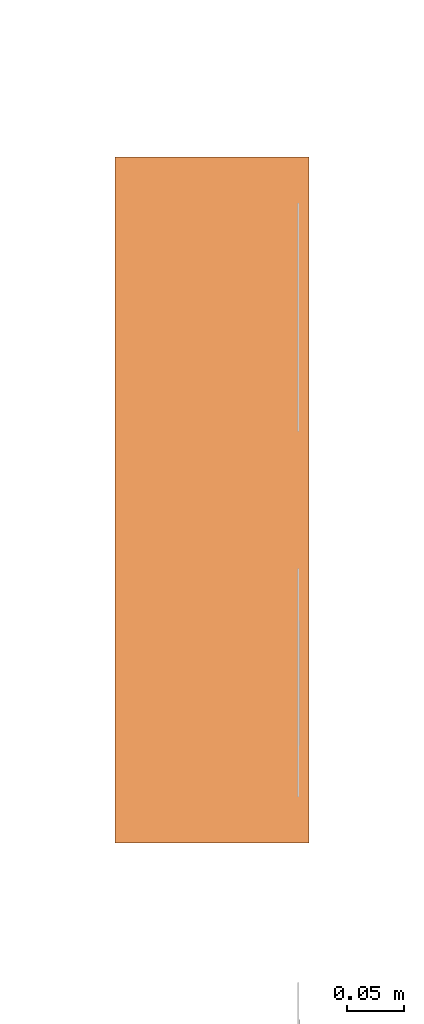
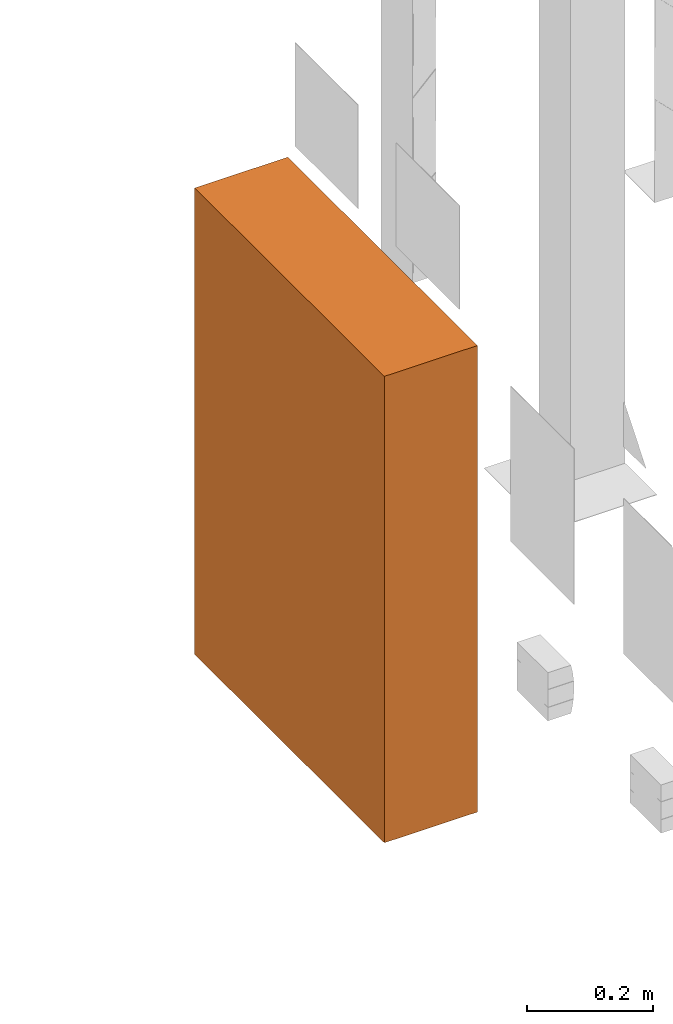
# One storey, part 20 of 119: 1 proxy.
"""IFC2X3 building model written with IfcOpenShell, lengths in metres."""

import ifcopenshell
import ifcopenshell.guid

model = None  # the IFC model being written
_history = None  # IfcOwnerHistory: only IFC2X3 demands one
_inside = {}  # id of a spatial element -> (the spatial element, [elements in it])
_under = {}  # id of a project, library or spatial element -> (it, [spatial elements below it])
_declared = {}  # id of a project -> (the project, [libraries it declares])
_typed = {}  # id of a type object -> (the type object, [elements of that type])
_made_of = {}  # id of a material, layer set ... -> (it, [elements and type objects made of it])


def new_model(schema):
    """Start an empty IFC model of exactly this schema.

    Asked for "IFC4X3", IfcOpenShell would pick the latest addendum, in which some entities
    have other attributes; the version numbers below select the first issue.
    IFC2X3 requires an IfcOwnerHistory on every rooted entity: one is made here for all.
    """
    global model, _history
    if schema == "IFC4X3":
        model = ifcopenshell.file(schema_version=(4, 3, 0, 0))
    else:
        model = ifcopenshell.file(schema=schema)
    _inside.clear()
    _under.clear()
    _declared.clear()
    _typed.clear()
    _made_of.clear()
    _history = None
    if model.schema == "IFC2X3":
        org = make("IfcOrganization", Name="unknown")
        user = make(
            "IfcPersonAndOrganization",
            ThePerson=make("IfcPerson", FamilyName="unknown"),
            TheOrganization=org,
        )
        app = make(
            "IfcApplication",
            ApplicationDeveloper=org,
            Version="unknown",
            ApplicationFullName="unknown",
            ApplicationIdentifier="unknown",
        )
        _history = make(
            "IfcOwnerHistory",
            OwningUser=user,
            OwningApplication=app,
            ChangeAction="ADDED",
            CreationDate=0,
        )
    return model


def make(cls, **values):
    """One entity of the class cls with the attributes given. An attribute that is None is left unset."""
    return model.create_entity(
        cls, **{name: value for name, value in values.items() if value is not None}
    )


def entity(cls, *values):
    """Any entity or typed value of the class cls, its attributes in the order of the schema. None: left unset."""
    e = model.create_entity(cls)
    for i, value in enumerate(values):
        if value is not None:
            e[i] = value
    return e


def rooted(cls, **values):
    """An entity with a GlobalId (a new one), such as an element, a storey or a relation."""
    return make(cls, GlobalId=ifcopenshell.guid.new(), OwnerHistory=_history, **values)


def si_unit(unit_type, name, prefix=None):
    """IfcSIUnit, for example si_unit("LENGTHUNIT", "METRE", prefix="MILLI")."""
    return make("IfcSIUnit", UnitType=unit_type, Prefix=prefix, Name=name)


def converted_unit(unit_type, name, factor, base, dimensions=None, offset=None):
    """IfcConversionBasedUnit, such as the inch: factor (a typed value) times the base unit."""
    return make(
        "IfcConversionBasedUnit"
        if offset is None
        else "IfcConversionBasedUnitWithOffset",
        ConversionOffset=offset,
        Dimensions=None
        if dimensions is None
        else entity("IfcDimensionalExponents", *dimensions),
        UnitType=unit_type,
        Name=name,
        ConversionFactor=make(
            "IfcMeasureWithUnit", ValueComponent=factor, UnitComponent=base
        ),
    )


def derived_unit(unit_type, elements):
    """IfcDerivedUnit: a product of units, each with its exponent."""
    return make(
        "IfcDerivedUnit",
        Elements=[
            make("IfcDerivedUnitElement", Unit=unit, Exponent=power)
            for unit, power in elements
        ],
        UnitType=unit_type,
    )


def assignment(units):
    """IfcUnitAssignment: the units of a project."""
    return None if units is None else make("IfcUnitAssignment", Units=units)


def point(xyz):
    """IfcCartesianPoint."""
    return None if xyz is None else make("IfcCartesianPoint", Coordinates=xyz)


def direction(xyz):
    """IfcDirection."""
    return None if xyz is None else make("IfcDirection", DirectionRatios=xyz)


def frame(location, z_axis=None, x_axis=None):
    """IfcAxis2Placement3D, a coordinate frame: its origin and axes. An axis left out is left unset."""
    return make(
        "IfcAxis2Placement3D",
        Location=point(location),
        Axis=direction(z_axis),
        RefDirection=direction(x_axis),
    )


def origin():
    """The frame at (0, 0, 0) with its axes left unset."""
    return frame((0.0, 0.0, 0.0))


def place(relative_to, where):
    """IfcLocalPlacement: puts the frame where relative to a parent placement (None: the world)."""
    return make(
        "IfcLocalPlacement", PlacementRelTo=relative_to, RelativePlacement=where
    )


def context(
    kind, dimensions, precision=None, world=None, true_north=None, identifier=None
):
    """IfcGeometricRepresentationContext, for example the 3D "Model" context."""
    return make(
        "IfcGeometricRepresentationContext",
        ContextIdentifier=identifier,
        ContextType=kind,
        CoordinateSpaceDimension=dimensions,
        Precision=precision,
        WorldCoordinateSystem=world,
        TrueNorth=true_north,
    )


def subcontext(parent, identifier, kind, view, scale=None):
    """IfcGeometricRepresentationSubContext, for example "Body" below "Model"."""
    return make(
        "IfcGeometricRepresentationSubContext",
        ContextIdentifier=identifier,
        ContextType=kind,
        ParentContext=parent,
        TargetScale=scale,
        TargetView=view,
    )


def project(units=None, contexts=None):
    """IfcProject with its units and contexts."""
    return rooted(
        "IfcProject",
        Name="project",
        RepresentationContexts=contexts,
        UnitsInContext=assignment(units),
    )


def spatial(cls, under=None, at=None, **own):
    """A site, building, storey or space (cls), placed at a placement, below another one or the project."""
    s = rooted(cls, ObjectPlacement=at, **own)
    if under is not None:
        _under.setdefault(under.id(), (under, []))[1].append(s)
    return s


def faces_of(points, faces, orient=None, outer=None):
    """IfcFace entities. A face is a list of loops; a loop is a list of indices into points, from 0.

    orient and outer hold one flag for each loop. By default every Orientation is true, the
    first loop of a face is its IfcFaceOuterBound and the others are IfcFaceBound.
    """
    made = []
    for i, loops in enumerate(faces):
        bounds = []
        for j, loop in enumerate(loops):
            is_outer = j == 0 if outer is None else outer[i][j]
            bounds.append(
                make(
                    "IfcFaceOuterBound" if is_outer else "IfcFaceBound",
                    Bound=make("IfcPolyLoop", Polygon=[points[k] for k in loop]),
                    Orientation=True if orient is None else orient[i][j],
                )
            )
        made.append(make("IfcFace", Bounds=bounds))
    return made


def face_set(faces, orient=None, outer=None):
    """The faces of one IfcConnectedFaceSet. surface_model builds it on its shared points."""
    return ("IfcConnectedFaceSet", faces, orient, outer)


def surface_model(cls, points, shells):
    """IfcFaceBasedSurfaceModel or IfcShellBasedSurfaceModel (cls): surfaces that need not close."""
    shared = [point(p) for p in points]
    made = [make(c, CfsFaces=faces_of(shared, fs, o, b)) for c, fs, o, b in shells]
    if cls == "IfcFaceBasedSurfaceModel":
        return make(cls, FbsmFaces=made)
    return make(cls, SbsmBoundary=made)


def shape(context_of_items, identifier, shape_type, items):
    """IfcShapeRepresentation: the items that make up one representation, for example the "Body"."""
    return make(
        "IfcShapeRepresentation",
        ContextOfItems=context_of_items,
        RepresentationIdentifier=identifier,
        RepresentationType=shape_type,
        Items=items,
    )


def source(mapping_origin, context_of_items, identifier, shape_type, items):
    """IfcRepresentationMap: a shape defined once, which mapped items show again and again."""
    return make(
        "IfcRepresentationMap",
        MappingOrigin=mapping_origin,
        MappedRepresentation=shape(context_of_items, identifier, shape_type, items),
    )


def transform(
    local_origin,
    x_axis=None,
    y_axis=None,
    z_axis=None,
    scale=None,
    scale2=None,
    scale3=None,
    uniform=True,
):
    """IfcCartesianTransformationOperator3D, or its non-uniform kind. x_axis, y_axis, z_axis: its Axis1, 2, 3."""
    if uniform:
        return make(
            "IfcCartesianTransformationOperator3D",
            Axis1=direction(x_axis),
            Axis2=direction(y_axis),
            LocalOrigin=point(local_origin),
            Scale=scale,
            Axis3=direction(z_axis),
        )
    return make(
        "IfcCartesianTransformationOperator3DnonUniform",
        Axis1=direction(x_axis),
        Axis2=direction(y_axis),
        LocalOrigin=point(local_origin),
        Scale=scale,
        Axis3=direction(z_axis),
        Scale2=scale2,
        Scale3=scale3,
    )


def mapped(mapping_source, mapping_target):
    """IfcMappedItem: shows the shape of a source again, moved by a transform."""
    return make(
        "IfcMappedItem", MappingSource=mapping_source, MappingTarget=mapping_target
    )


def material(Name=None, Category=None):
    """IfcMaterial."""
    return make("IfcMaterial", Name=Name, Category=Category)


def material_list(materials):
    """IfcMaterialList."""
    return make("IfcMaterialList", Materials=materials)


def made_of(thing, what):
    """Note that an element or type object is made of a material, layer set ...; save() writes the relation."""
    if what is not None:
        _made_of.setdefault(what.id(), (what, []))[1].append(thing)
    return thing


def type_object(cls, material=None, **own):
    """A type object (cls), such as IfcWallType, which elements share."""
    return made_of(rooted(cls, **own), material)


def type_shapes(of_type, sources):
    """Give a type object the sources (RepresentationMaps) that its elements show as mapped items."""
    of_type.RepresentationMaps = sources


def element(
    cls,
    number,
    at=None,
    inside=None,
    cuts=None,
    type_object=None,
    material=None,
    context=None,
    identifier="Body",
    shape_type=None,
    held_by="IfcProductDefinitionShape",
    body=None,
    shapes=None,
    **own,
):
    """One element of the class cls, such as IfcWall. Its Tag is "e" and its number.

    at: its placement. inside: the storey or other place that contains it. cuts: it is an
    opening in that element (IfcRelVoidsElement). A single representation is given by context,
    identifier, shape_type and body (its items); several are given by shapes. held_by: the class
    of the entity that holds the representations. save() writes the other relations.
    """
    e = rooted(cls, Tag="e%d" % number, ObjectPlacement=at, **own)
    if body is not None:
        shapes = [shape(context, identifier, shape_type, body)]
    if shapes is not None:
        e.Representation = make(held_by, Representations=shapes)
    if inside is not None:
        _inside.setdefault(inside.id(), (inside, []))[1].append(e)
    if cuts is not None:
        rooted(
            "IfcRelVoidsElement", RelatingBuildingElement=cuts, RelatedOpeningElement=e
        )
    if type_object is not None:
        _typed.setdefault(type_object.id(), (type_object, []))[1].append(e)
    return made_of(e, material)


def aggregate(whole, parts):
    """IfcRelAggregates: a whole, such as a stair, and the parts it consists of."""
    return rooted("IfcRelAggregates", RelatingObject=whole, RelatedObjects=parts)


def save(model, path):
    """Write the relations noted so far, then the file.

    IfcRelAggregates (storeys below a building ...), IfcRelContainedInSpatialStructure (elements
    in a storey), IfcRelDefinesByType, IfcRelAssociatesMaterial and IfcRelDeclares: one each for
    every whole, place, type object, material and project.
    """
    for whole, parts in _under.values():
        aggregate(whole, parts)
    for where, things in _inside.values():
        rooted(
            "IfcRelContainedInSpatialStructure",
            RelatedElements=things,
            RelatingStructure=where,
        )
    for kind, things in _typed.values():
        rooted("IfcRelDefinesByType", RelatedObjects=things, RelatingType=kind)
    for what, things in _made_of.values():
        rooted("IfcRelAssociatesMaterial", RelatedObjects=things, RelatingMaterial=what)
    for by, libraries in _declared.values():
        rooted("IfcRelDeclares", RelatingContext=by, RelatedDefinitions=libraries)
    model.write(path)


model = new_model("IFC2X3")

# Units and contexts
model_context = context("Model", 3, precision=1e-05, world=origin(), true_north=direction((6.12303176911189e-17, 1.0)))
body_context = subcontext(model_context, "Body", "Model", "MODEL_VIEW")
ifc_project = project(units=[si_unit("LENGTHUNIT", "METRE"), si_unit("AREAUNIT", "SQUARE_METRE"), si_unit("VOLUMEUNIT", "CUBIC_METRE"), converted_unit("PLANEANGLEUNIT", "DEGREE", entity("IfcRatioMeasure", 0.0174532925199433), si_unit("PLANEANGLEUNIT", "RADIAN"), dimensions=[0, 0, 0, 0, 0, 0, 0]), si_unit("MASSUNIT", "GRAM", prefix="KILO"), derived_unit("MASSDENSITYUNIT", [(si_unit("MASSUNIT", "GRAM", prefix="KILO"), 1), (si_unit("LENGTHUNIT", "METRE"), -3)]), derived_unit("MOMENTOFINERTIAUNIT", [(si_unit("LENGTHUNIT", "METRE"), 4)]), si_unit("TIMEUNIT", "SECOND"), si_unit("FREQUENCYUNIT", "HERTZ"), si_unit("THERMODYNAMICTEMPERATUREUNIT", "DEGREE_CELSIUS"), derived_unit("THERMALTRANSMITTANCEUNIT", [(si_unit("MASSUNIT", "GRAM", prefix="KILO"), 1), (si_unit("THERMODYNAMICTEMPERATUREUNIT", "KELVIN"), -1), (si_unit("TIMEUNIT", "SECOND"), -3)]), derived_unit("VOLUMETRICFLOWRATEUNIT", [(si_unit("LENGTHUNIT", "METRE"), 3), (si_unit("TIMEUNIT", "SECOND"), -1)]), si_unit("ELECTRICCURRENTUNIT", "AMPERE"), si_unit("ELECTRICVOLTAGEUNIT", "VOLT"), si_unit("POWERUNIT", "WATT"), si_unit("FORCEUNIT", "NEWTON", prefix="KILO"), si_unit("ILLUMINANCEUNIT", "LUX"), si_unit("LUMINOUSFLUXUNIT", "LUMEN"), si_unit("LUMINOUSINTENSITYUNIT", "CANDELA"), derived_unit("USERDEFINED", [(si_unit("MASSUNIT", "GRAM", prefix="KILO"), -1), (si_unit("LENGTHUNIT", "METRE"), -2), (si_unit("TIMEUNIT", "SECOND"), 3), (si_unit("LUMINOUSFLUXUNIT", "LUMEN"), 1)]), derived_unit("LINEARVELOCITYUNIT", [(si_unit("LENGTHUNIT", "METRE"), 1), (si_unit("TIMEUNIT", "SECOND"), -1)]), si_unit("PRESSUREUNIT", "PASCAL"), derived_unit("USERDEFINED", [(si_unit("LENGTHUNIT", "METRE"), -2), (si_unit("MASSUNIT", "GRAM", prefix="KILO"), 1), (si_unit("TIMEUNIT", "SECOND"), -2)]), derived_unit("LINEARFORCEUNIT", [(si_unit("MASSUNIT", "GRAM", prefix="KILO"), 1), (si_unit("LENGTHUNIT", "METRE"), 1), (si_unit("TIMEUNIT", "SECOND"), -2), (si_unit("LENGTHUNIT", "METRE"), -1)]), derived_unit("PLANARFORCEUNIT", [(si_unit("MASSUNIT", "GRAM", prefix="KILO"), 1), (si_unit("LENGTHUNIT", "METRE"), 1), (si_unit("TIMEUNIT", "SECOND"), -2), (si_unit("LENGTHUNIT", "METRE"), -2)])], contexts=[model_context])

# Site, building, storey
site_placement = place(None, origin())
site = spatial("IfcSite", under=ifc_project, at=site_placement, Name="Default", CompositionType="ELEMENT")
building_placement = place(site_placement, origin())
building = spatial("IfcBuilding", under=site, at=building_placement, CompositionType="ELEMENT")
storey_placement = place(building_placement, origin())
storey = spatial("IfcBuildingStorey", under=building, at=storey_placement, Name="PAV. 01 - TÉRREO", CompositionType="ELEMENT", Elevation=0.0)

# Proxy
ifc_material_1 = material(Name="Pintura branca")
ifc_material_2 = material(Name="Vidro")
ifc_material_3 = material(Name="Pintura Metalica Vermelha")
ifc_material_list_1 = material_list([ifc_material_1, ifc_material_2, ifc_material_3])
ifc_material_list_2 = material_list([ifc_material_3, ifc_material_1])
building_element_proxy_type = type_object("IfcBuildingElementProxyType", Name="Equipamento - E07 - Hidrante:Hidrante simples embutido - requinte 2.1/2 - 38 mm - 30m", PredefinedType="NOTDEFINED", material=ifc_material_list_2)
shared_shape = source(origin(), body_context, "Body", "SurfaceModel", [
    surface_model("IfcFaceBasedSurfaceModel", [(0.234125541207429, 0.00999999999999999, 0.69041529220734), (0.236636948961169, 0.00999999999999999, 0.69041529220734), (0.236636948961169, 0.00999999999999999, 0.710506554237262), (0.234125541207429, 0.00999999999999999, 0.710506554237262), (0.241659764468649, 0.00999999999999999, 0.69041529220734), (0.244171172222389, 0.00999999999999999, 0.69041529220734), (0.244171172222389, 0.00999999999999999, 0.706337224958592), (0.254668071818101, 0.00999999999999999, 0.69041529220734), (0.257356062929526, 0.00999999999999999, 0.69041529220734), (0.257356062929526, 0.00999999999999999, 0.710506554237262), (0.254844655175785, 0.00999999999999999, 0.710506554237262), (0.254844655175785, 0.00999999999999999, 0.69458952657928), (0.244347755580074, 0.00999999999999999, 0.710506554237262), (0.241659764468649, 0.00999999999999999, 0.710506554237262), (0.27587769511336, 0.00999999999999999, 0.697557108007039), (0.273746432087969, 0.00999999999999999, 0.693858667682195), (0.269903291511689, 0.00999999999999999, 0.692612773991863), (0.266437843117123, 0.00999999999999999, 0.693527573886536), (0.264078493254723, 0.00999999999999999, 0.696291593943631), (0.263320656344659, 0.00999999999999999, 0.70061788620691), (0.263960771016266, 0.00999999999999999, 0.704350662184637), (0.2661803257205, 0.00999999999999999, 0.707234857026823), (0.270109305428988, 0.00999999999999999, 0.708309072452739), (0.273503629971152, 0.00999999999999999, 0.707340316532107), (0.275563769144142, 0.00999999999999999, 0.704252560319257), (0.278075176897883, 0.00999999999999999, 0.704850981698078), (0.275237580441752, 0.00999999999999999, 0.709255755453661), (0.270207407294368, 0.00999999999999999, 0.71082048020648), (0.265380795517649, 0.00999999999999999, 0.709611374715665), (0.261998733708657, 0.00999999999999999, 0.706072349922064), (0.260809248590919, 0.00999999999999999, 0.700612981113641), (0.261861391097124, 0.00999999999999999, 0.69524190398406), (0.264927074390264, 0.00999999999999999, 0.69142083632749), (0.270153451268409, 0.00999999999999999, 0.690101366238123), (0.275411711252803, 0.00999999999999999, 0.691845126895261), (0.2783891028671, 0.00999999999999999, 0.696909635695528), (0.289376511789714, 0.00999999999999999, 0.714273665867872), (0.29110310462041, 0.00999999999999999, 0.711762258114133), (0.29361451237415, 0.00999999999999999, 0.711762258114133), (0.290632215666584, 0.00999999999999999, 0.715529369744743), (0.288120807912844, 0.00999999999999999, 0.715529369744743), (0.285452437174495, 0.00999999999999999, 0.711762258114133), (0.287963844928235, 0.00999999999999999, 0.711762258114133), (0.300363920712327, 0.00999999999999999, 0.69041529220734), (0.302875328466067, 0.00999999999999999, 0.69041529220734), (0.302875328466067, 0.00999999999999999, 0.706337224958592), (0.313372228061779, 0.00999999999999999, 0.69041529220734), (0.316060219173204, 0.00999999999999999, 0.69041529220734), (0.316060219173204, 0.00999999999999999, 0.710506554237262), (0.313548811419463, 0.00999999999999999, 0.710506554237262), (0.313548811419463, 0.00999999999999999, 0.69458952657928), (0.303051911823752, 0.00999999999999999, 0.710506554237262), (0.300363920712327, 0.00999999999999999, 0.710506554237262), (0.320455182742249, 0.00999999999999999, 0.69041529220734), (0.327719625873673, 0.00999999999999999, 0.69041529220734), (0.330949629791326, 0.00999999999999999, 0.690758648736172), (0.333350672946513, 0.00999999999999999, 0.691766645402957), (0.335185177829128, 0.00999999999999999, 0.693588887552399), (0.336558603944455, 0.00999999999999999, 0.696514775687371), (0.337093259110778, 0.00999999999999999, 0.70056883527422), (0.336303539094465, 0.00999999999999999, 0.705346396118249), (0.333924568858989, 0.00999999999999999, 0.708779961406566), (0.330971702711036, 0.00999999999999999, 0.71021715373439), (0.32738607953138, 0.00999999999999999, 0.710506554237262), (0.320455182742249, 0.00999999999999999, 0.710506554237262), (0.322966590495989, 0.00999999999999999, 0.692926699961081), (0.322966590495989, 0.00999999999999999, 0.707995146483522), (0.327341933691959, 0.00999999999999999, 0.707995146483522), (0.33090303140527, 0.00999999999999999, 0.707592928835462), (0.333510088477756, 0.00999999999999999, 0.705366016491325), (0.334581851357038, 0.00999999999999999, 0.700608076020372), (0.334034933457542, 0.00999999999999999, 0.696809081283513), (0.332506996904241, 0.00999999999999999, 0.694314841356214), (0.330643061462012, 0.00999999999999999, 0.693289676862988), (0.327410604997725, 0.00999999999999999, 0.692926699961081), (0.340860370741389, 0.00999999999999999, 0.69041529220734), (0.343371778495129, 0.00999999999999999, 0.69041529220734), (0.343371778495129, 0.00999999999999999, 0.710506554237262), (0.340860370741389, 0.00999999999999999, 0.710506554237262), (0.347452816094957, 0.00999999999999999, 0.700196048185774), (0.348600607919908, 0.00999999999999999, 0.695195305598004), (0.351975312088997, 0.00999999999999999, 0.691467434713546), (0.357027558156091, 0.00999999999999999, 0.690101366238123), (0.361890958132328, 0.00999999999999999, 0.691337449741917), (0.365373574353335, 0.00999999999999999, 0.694977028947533), (0.366602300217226, 0.00999999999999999, 0.700426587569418), (0.365434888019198, 0.00999999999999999, 0.705802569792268), (0.362040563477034, 0.00999999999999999, 0.709496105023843), (0.357042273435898, 0.00999999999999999, 0.71082048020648), (0.350130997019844, 0.00999999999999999, 0.708000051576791), (0.349964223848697, 0.00999999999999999, 0.700171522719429), (0.35205869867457, 0.00999999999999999, 0.706432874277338), (0.357056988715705, 0.00999999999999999, 0.708309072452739), (0.360743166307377, 0.00999999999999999, 0.707335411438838), (0.363237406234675, 0.00999999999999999, 0.704591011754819), (0.364090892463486, 0.00999999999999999, 0.700446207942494), (0.362096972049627, 0.00999999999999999, 0.694653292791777), (0.357012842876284, 0.00999999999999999, 0.692612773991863), (0.351972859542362, 0.00999999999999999, 0.694633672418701), (0.281842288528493, 0.00999999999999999, 0.69041529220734), (0.296596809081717, 0.00999999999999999, 0.69041529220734), (0.296596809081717, 0.00999999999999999, 0.692926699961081), (0.284353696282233, 0.00999999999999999, 0.692926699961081), (0.284353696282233, 0.00999999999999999, 0.699519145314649), (0.295655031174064, 0.00999999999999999, 0.699519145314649), (0.295655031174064, 0.00999999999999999, 0.702030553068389), (0.284353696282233, 0.00999999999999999, 0.702030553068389), (0.284353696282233, 0.00999999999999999, 0.707995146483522), (0.296282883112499, 0.00999999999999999, 0.707995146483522), (0.296282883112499, 0.00999999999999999, 0.710506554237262), (0.281842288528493, 0.00999999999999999, 0.710506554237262)], [face_set([[[0, 1, 2, 3]]]), face_set([[[4, 5, 6, 7, 8, 9, 10, 11, 12, 13]]]), face_set([[[14, 15, 16, 17, 18, 19, 20, 21, 22, 23, 24, 25, 26, 27, 28, 29, 30, 31, 32, 33, 34, 35]]]), face_set([[[36, 37, 38, 39, 40, 41, 42]]]), face_set([[[43, 44, 45, 46, 47, 48, 49, 50, 51, 52]]]), face_set([[[53, 54, 55, 56, 57, 58, 59, 60, 61, 62, 63, 64], [65, 66, 67, 68, 69, 70, 71, 72, 73, 74]]]), face_set([[[75, 76, 77, 78]]]), face_set([[[79, 80, 81, 82, 83, 84, 85, 86, 87, 88, 89], [90, 91, 92, 93, 94, 95, 96, 97, 98]]]), face_set([[[99, 100, 101, 102, 103, 104, 105, 106, 107, 108, 109, 110]]])]),
    surface_model("IfcFaceBasedSurfaceModel", [(0.375000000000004, 0.0, 0.700857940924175), (0.372444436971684, 0.0, 0.681446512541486), (0.364951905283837, 0.0, 0.663357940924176), (0.353033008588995, 0.0, 0.647824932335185), (0.337500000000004, 0.0, 0.635906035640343), (0.319411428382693, 0.0, 0.628413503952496), (0.300000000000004, 0.0, 0.625857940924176), (0.280588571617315, 0.0, 0.628413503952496), (0.262500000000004, 0.0, 0.635906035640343), (0.246966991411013, 0.0, 0.647824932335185), (0.235048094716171, 0.0, 0.663357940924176), (0.227555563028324, 0.0, 0.681446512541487), (0.225000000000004, 0.0, 0.700857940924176), (0.227555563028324, 0.0, 0.720269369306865), (0.235048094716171, 0.0, 0.738357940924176), (0.246966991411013, 0.0, 0.753890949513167), (0.262500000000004, 0.0, 0.765809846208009), (0.280588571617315, 0.0, 0.773302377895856), (0.300000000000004, 0.0, 0.775857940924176), (0.319411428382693, 0.0, 0.773302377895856), (0.337500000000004, 0.0, 0.765809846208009), (0.353033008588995, 0.0, 0.753890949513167), (0.364951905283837, 0.0, 0.738357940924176), (0.372444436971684, 0.0, 0.720269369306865), (0.375000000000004, 0.00999999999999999, 0.700857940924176), (0.372444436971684, 0.00999999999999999, 0.681446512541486), (0.364951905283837, 0.00999999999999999, 0.663357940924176), (0.353033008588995, 0.00999999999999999, 0.647824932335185), (0.337500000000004, 0.00999999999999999, 0.635906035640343), (0.319411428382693, 0.00999999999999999, 0.628413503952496), (0.300000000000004, 0.00999999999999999, 0.625857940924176), (0.280588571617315, 0.00999999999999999, 0.628413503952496), (0.262500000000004, 0.00999999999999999, 0.635906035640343), (0.246966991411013, 0.00999999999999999, 0.647824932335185), (0.235048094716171, 0.00999999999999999, 0.663357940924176), (0.227555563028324, 0.00999999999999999, 0.681446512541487), (0.225000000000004, 0.00999999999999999, 0.700857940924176), (0.227555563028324, 0.00999999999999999, 0.720269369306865), (0.235048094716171, 0.00999999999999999, 0.738357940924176), (0.246966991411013, 0.00999999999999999, 0.753890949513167), (0.262500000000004, 0.00999999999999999, 0.765809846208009), (0.280588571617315, 0.00999999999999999, 0.773302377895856), (0.300000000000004, 0.00999999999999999, 0.775857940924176), (0.319411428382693, 0.00999999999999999, 0.773302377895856), (0.337500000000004, 0.00999999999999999, 0.765809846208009), (0.353033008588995, 0.00999999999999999, 0.753890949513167), (0.364951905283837, 0.00999999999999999, 0.738357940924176), (0.372444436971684, 0.00999999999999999, 0.720269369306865)], [face_set([[[0, 1, 2, 3, 4, 5, 6, 7, 8, 9, 10, 11, 12, 13, 14, 15, 16, 17, 18, 19, 20, 21, 22, 23]], [[24, 25, 26, 27, 28, 29, 30, 31, 32, 33, 34, 35, 36, 37, 38, 39, 40, 41, 42, 43, 44, 45, 46, 47]], [[36, 35, 11, 12]], [[35, 34, 10, 11]], [[33, 32, 8, 9]], [[34, 33, 9, 10]], [[32, 31, 7, 8]], [[6, 7, 31, 30]], [[30, 29, 5, 6]], [[29, 28, 4, 5]], [[27, 26, 2, 3]], [[28, 27, 3, 4]], [[26, 25, 1, 2]], [[0, 1, 25, 24]], [[24, 47, 23, 0]], [[47, 46, 22, 23]], [[45, 44, 20, 21]], [[46, 45, 21, 22]], [[44, 43, 19, 20]], [[18, 19, 43, 42]], [[42, 41, 17, 18]], [[41, 40, 16, 17]], [[39, 38, 14, 15]], [[40, 39, 15, 16]], [[38, 37, 13, 14]], [[12, 13, 37, 36]]])]),
    surface_model("IfcFaceBasedSurfaceModel", [(0.567500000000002, 0.0, 0.868357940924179), (0.567500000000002, 0.0, 0.0333579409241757), (0.032500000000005, 0.0, 0.0333579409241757), (0.032500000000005, 0.0, 0.868357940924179), (0.375000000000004, 0.0, 0.700857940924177), (0.372444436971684, 0.0, 0.681446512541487), (0.364951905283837, 0.0, 0.663357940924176), (0.353033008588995, 0.0, 0.647824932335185), (0.337500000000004, 0.0, 0.635906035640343), (0.319411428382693, 0.0, 0.628413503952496), (0.300000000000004, 0.0, 0.625857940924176), (0.280588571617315, 0.0, 0.628413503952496), (0.262500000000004, 0.0, 0.635906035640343), (0.246966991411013, 0.0, 0.647824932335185), (0.235048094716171, 0.0, 0.663357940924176), (0.227555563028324, 0.0, 0.681446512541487), (0.225000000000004, 0.0, 0.700857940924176), (0.227555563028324, 0.0, 0.720269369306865), (0.235048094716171, 0.0, 0.738357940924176), (0.246966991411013, 0.0, 0.753890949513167), (0.262500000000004, 0.0, 0.765809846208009), (0.280588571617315, 0.0, 0.773302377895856), (0.300000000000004, 0.0, 0.775857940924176), (0.319411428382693, 0.0, 0.773302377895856), (0.337500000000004, 0.0, 0.765809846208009), (0.353033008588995, 0.0, 0.753890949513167), (0.364951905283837, 0.0, 0.738357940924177), (0.372444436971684, 0.0, 0.720269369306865), (0.285000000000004, 0.0, 0.162857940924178), (0.220000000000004, 0.0, 0.162857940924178), (0.220000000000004, 0.0, 0.160857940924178), (0.285000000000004, 0.0, 0.160857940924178), (0.285000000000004, 0.0, 0.122857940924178), (0.220000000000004, 0.0, 0.122857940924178), (0.220000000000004, 0.0, 0.120857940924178), (0.285000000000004, 0.0, 0.120857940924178), (0.285000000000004, 0.0, 0.142857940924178), (0.220000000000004, 0.0, 0.142857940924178), (0.220000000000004, 0.0, 0.140857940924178), (0.285000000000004, 0.0, 0.140857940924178), (0.380000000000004, 0.0, 0.162857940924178), (0.315000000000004, 0.0, 0.162857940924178), (0.315000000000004, 0.0, 0.160857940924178), (0.380000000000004, 0.0, 0.160857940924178), (0.380000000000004, 0.0, 0.122857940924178), (0.315000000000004, 0.0, 0.122857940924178), (0.315000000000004, 0.0, 0.120857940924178), (0.380000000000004, 0.0, 0.120857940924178), (0.380000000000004, 0.0, 0.142857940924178), (0.315000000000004, 0.0, 0.142857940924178), (0.315000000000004, 0.0, 0.140857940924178), (0.380000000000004, 0.0, 0.140857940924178), (0.567500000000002, 0.00999999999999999, 0.868357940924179), (0.567500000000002, 0.00999999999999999, 0.0333579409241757), (0.032500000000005, 0.00999999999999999, 0.0333579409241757), (0.032500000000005, 0.00999999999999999, 0.868357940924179), (0.375000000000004, 0.00999999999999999, 0.700857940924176), (0.372444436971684, 0.00999999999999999, 0.681446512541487), (0.364951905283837, 0.00999999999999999, 0.663357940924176), (0.353033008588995, 0.00999999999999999, 0.647824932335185), (0.337500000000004, 0.00999999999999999, 0.635906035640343), (0.319411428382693, 0.00999999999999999, 0.628413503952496), (0.300000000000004, 0.00999999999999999, 0.625857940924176), (0.280588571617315, 0.00999999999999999, 0.628413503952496), (0.262500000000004, 0.00999999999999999, 0.635906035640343), (0.246966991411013, 0.00999999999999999, 0.647824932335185), (0.235048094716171, 0.00999999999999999, 0.663357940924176), (0.227555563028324, 0.00999999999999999, 0.681446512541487), (0.225000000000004, 0.00999999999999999, 0.700857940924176), (0.227555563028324, 0.00999999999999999, 0.720269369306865), (0.235048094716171, 0.00999999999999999, 0.738357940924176), (0.246966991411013, 0.00999999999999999, 0.753890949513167), (0.262500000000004, 0.00999999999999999, 0.765809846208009), (0.280588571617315, 0.00999999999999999, 0.773302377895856), (0.300000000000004, 0.00999999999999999, 0.775857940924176), (0.319411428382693, 0.00999999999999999, 0.773302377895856), (0.337500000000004, 0.00999999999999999, 0.765809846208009), (0.353033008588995, 0.00999999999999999, 0.753890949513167), (0.364951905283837, 0.00999999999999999, 0.738357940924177), (0.372444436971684, 0.00999999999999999, 0.720269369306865), (0.285000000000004, 0.00999999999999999, 0.162857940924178), (0.220000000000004, 0.00999999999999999, 0.162857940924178), (0.220000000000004, 0.00999999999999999, 0.160857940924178), (0.285000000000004, 0.00999999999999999, 0.160857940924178), (0.285000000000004, 0.00999999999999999, 0.122857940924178), (0.220000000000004, 0.00999999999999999, 0.122857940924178), (0.220000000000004, 0.00999999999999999, 0.120857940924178), (0.285000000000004, 0.00999999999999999, 0.120857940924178), (0.285000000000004, 0.00999999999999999, 0.142857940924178), (0.220000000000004, 0.00999999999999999, 0.142857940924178), (0.220000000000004, 0.00999999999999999, 0.140857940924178), (0.285000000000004, 0.00999999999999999, 0.140857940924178), (0.380000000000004, 0.00999999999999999, 0.162857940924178), (0.315000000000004, 0.00999999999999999, 0.162857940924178), (0.315000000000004, 0.00999999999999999, 0.160857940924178), (0.380000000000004, 0.00999999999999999, 0.160857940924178), (0.380000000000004, 0.00999999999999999, 0.122857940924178), (0.315000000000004, 0.00999999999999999, 0.122857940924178), (0.315000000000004, 0.00999999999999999, 0.120857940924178), (0.380000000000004, 0.00999999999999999, 0.120857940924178), (0.380000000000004, 0.00999999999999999, 0.142857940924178), (0.315000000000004, 0.00999999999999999, 0.142857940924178), (0.315000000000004, 0.00999999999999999, 0.140857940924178), (0.380000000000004, 0.00999999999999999, 0.140857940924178), (0.010000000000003, 0.160000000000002, 0.890857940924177), (0.010000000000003, 0.160000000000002, 0.0108579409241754), (0.590000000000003, 0.160000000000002, 0.0108579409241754), (0.590000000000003, 0.160000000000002, 0.890857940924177), (0.6, 0.170000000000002, 0.900857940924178), (0.0, 0.170000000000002, 0.900857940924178), (0.0, 0.170000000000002, 0.0), (0.6, 0.170000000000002, 0.0), (0.6, 0.0, 0.900857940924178), (0.0, 0.0, 0.900857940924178), (0.0, 0.0, 0.0), (0.6, 0.0, 0.0), (0.010000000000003, 0.0100000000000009, 0.0108579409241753), (0.010000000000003, 0.0100000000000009, 0.890857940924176), (0.590000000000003, 0.0100000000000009, 0.890857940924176), (0.590000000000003, 0.0100000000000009, 0.0108579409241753), (0.5675, 0.0, 0.868357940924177), (0.5675, 0.0, 0.0333579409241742), (0.0325000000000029, 0.0, 0.0333579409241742), (0.0325000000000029, 0.0, 0.868357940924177), (0.5675, 0.0100000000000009, 0.868357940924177), (0.5675, 0.0100000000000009, 0.0333579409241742), (0.0325000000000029, 0.0100000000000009, 0.0333579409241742), (0.0325000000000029, 0.0100000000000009, 0.868357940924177)], [face_set([[[0, 1, 2, 3], [4, 5, 6, 7, 8, 9, 10, 11, 12, 13, 14, 15, 16, 17, 18, 19, 20, 21, 22, 23, 24, 25, 26, 27], [28, 29, 30, 31], [32, 33, 34, 35], [36, 37, 38, 39], [40, 41, 42, 43], [44, 45, 46, 47], [48, 49, 50, 51]], [[52, 53, 54, 55], [56, 57, 58, 59, 60, 61, 62, 63, 64, 65, 66, 67, 68, 69, 70, 71, 72, 73, 74, 75, 76, 77, 78, 79], [80, 81, 82, 83], [84, 85, 86, 87], [88, 89, 90, 91], [92, 93, 94, 95], [96, 97, 98, 99], [100, 101, 102, 103]], [[0, 1, 53, 52]], [[1, 2, 54, 53]], [[2, 54, 55, 3]], [[3, 55, 52, 0]], [[69, 17, 18, 70]], [[68, 16, 17, 69]], [[72, 20, 21, 73]], [[71, 19, 20, 72]], [[70, 18, 19, 71]], [[22, 74, 73, 21]], [[76, 24, 25, 77]], [[75, 23, 24, 76]], [[79, 27, 4, 56]], [[78, 26, 27, 79]], [[77, 25, 26, 78]], [[74, 22, 23, 75]], [[56, 4, 5, 57]], [[58, 6, 5, 57]], [[60, 8, 7, 59]], [[59, 7, 6, 58]], [[61, 9, 8, 60]], [[9, 61, 62, 10]], [[64, 12, 11, 63]], [[65, 13, 12, 64]], [[67, 15, 14, 66]], [[66, 14, 13, 65]], [[67, 15, 16, 68]], [[63, 11, 10, 62]], [[31, 83, 80, 28]], [[30, 82, 83, 31]], [[29, 30, 82, 81]], [[28, 29, 81, 80]], [[35, 87, 84, 32]], [[34, 86, 87, 35]], [[33, 34, 86, 85]], [[32, 33, 85, 84]], [[39, 91, 88, 36]], [[38, 90, 91, 39]], [[37, 38, 90, 89]], [[36, 37, 89, 88]], [[43, 95, 92, 40]], [[42, 94, 95, 43]], [[41, 42, 94, 93]], [[40, 41, 93, 92]], [[47, 99, 96, 44]], [[46, 98, 99, 47]], [[45, 46, 98, 97]], [[44, 45, 97, 96]], [[51, 103, 100, 48]], [[50, 102, 103, 51]], [[49, 50, 102, 101]], [[48, 49, 101, 100]]]), face_set([[[104, 105, 106, 107]], [[108, 109, 110, 111]], [[108, 112, 113, 109]], [[113, 109, 110, 114]], [[114, 110, 111, 115]], [[115, 111, 108, 112]], [[116, 105, 104, 117]], [[117, 104, 107, 118]], [[118, 119, 106, 107]], [[105, 106, 119, 116]], [[112, 113, 114, 115], [120, 121, 122, 123]], [[116, 119, 118, 117], [124, 125, 126, 127]], [[121, 125, 124, 120]], [[122, 126, 125, 121]], [[123, 122, 126, 127]], [[120, 123, 127, 124]]])]),
])
type_shapes(building_element_proxy_type, [shared_shape])
proxy_placement = place(storey_placement, frame((79.6840605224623, 20.8621896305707, 0.850000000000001), z_axis=(0.0, 0.0, 1.0), x_axis=(0.0, 1.0, 0.0)))
element("IfcBuildingElementProxy", 1, at=proxy_placement, inside=storey, type_object=building_element_proxy_type, material=ifc_material_list_1, Name="Equipamento - E07 - Hidrante:Hidrante simples embutido - requinte 2.1/2 - 38 mm - 30m", ObjectType="Equipamento - E07 - Hidrante:Hidrante simples embutido - requinte 2.1/2 - 38 mm - 30m", context=body_context, shape_type="MappedRepresentation", body=[
    mapped(shared_shape, transform((0.0, 0.0, 0.0), scale=1.0)),
])

save(model, "model.ifc")
